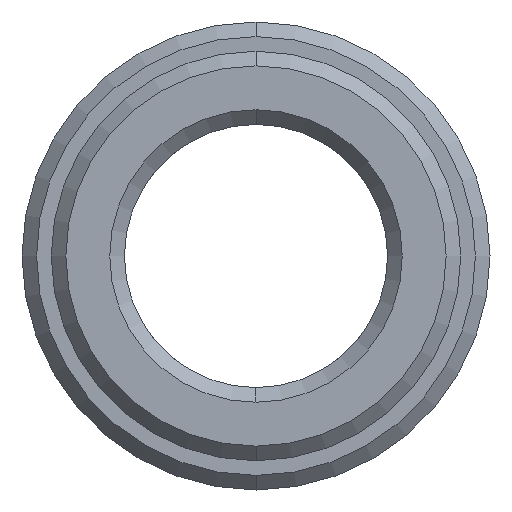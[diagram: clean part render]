
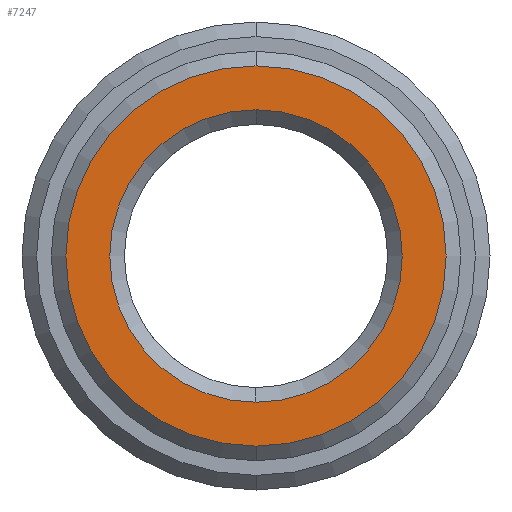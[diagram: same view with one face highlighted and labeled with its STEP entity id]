
A CAD part, left-side view. The second image highlights one B-rep face of the part: STEP entity #7247.
In plain terms, the highlighted planar face has unit normal (-1, 0, 0).
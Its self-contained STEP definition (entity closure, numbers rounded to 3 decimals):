
#4426=CARTESIAN_POINT('',(-5.,0.,0.));
#4427=DIRECTION('',(1.,0.,0.));
#4428=DIRECTION('',(0.,0.,1.));
#4429=AXIS2_PLACEMENT_3D('',#4426,#4427,#4428);
#4431=CARTESIAN_POINT('',(-5.,0.,0.));
#4432=DIRECTION('',(1.,0.,0.));
#4433=DIRECTION('',(0.,0.,-1.));
#4434=AXIS2_PLACEMENT_3D('',#4431,#4432,#4433);
#4436=CARTESIAN_POINT('',(-5.,0.,0.));
#4437=DIRECTION('',(1.,0.,0.));
#4438=DIRECTION('',(0.,0.,1.));
#4439=AXIS2_PLACEMENT_3D('',#4436,#4437,#4438);
#4441=CARTESIAN_POINT('',(-5.,0.,0.));
#4442=DIRECTION('',(1.,0.,0.));
#4443=DIRECTION('',(0.,0.,-1.));
#4444=AXIS2_PLACEMENT_3D('',#4441,#4442,#4443);
#4798=CARTESIAN_POINT('',(-5.,0.,5.));
#4799=CARTESIAN_POINT('',(-5.,0.,-5.));
#4800=VERTEX_POINT('',#4798);
#4801=VERTEX_POINT('',#4799);
#4806=CARTESIAN_POINT('',(-5.,0.,6.5));
#4807=CARTESIAN_POINT('',(-5.,0.,-6.5));
#4808=VERTEX_POINT('',#4806);
#4809=VERTEX_POINT('',#4807);
#7232=CARTESIAN_POINT('',(-5.,0.,0.));
#7233=DIRECTION('',(1.,0.,0.));
#7234=DIRECTION('',(0.,0.,1.));
#7235=AXIS2_PLACEMENT_3D('',#7232,#7233,#7234);
#7236=PLANE('',#7235);
#7237=ORIENTED_EDGE('',*,*,#7199,.T.);
#7238=ORIENTED_EDGE('',*,*,#7214,.T.);
#7239=EDGE_LOOP('',(#7237,#7238));
#7240=FACE_OUTER_BOUND('',#7239,.F.);
#7242=ORIENTED_EDGE('',*,*,#7241,.F.);
#7244=ORIENTED_EDGE('',*,*,#7243,.F.);
#7245=EDGE_LOOP('',(#7242,#7244));
#7246=FACE_BOUND('',#7245,.F.);
#7247=ADVANCED_FACE('',(#7240,#7246),#7236,.F.);
#4430=CIRCLE('',#4429,6.5);
#4435=CIRCLE('',#4434,6.5);
#4440=CIRCLE('',#4439,5.);
#4445=CIRCLE('',#4444,5.);
#7199=EDGE_CURVE('',#4808,#4809,#4430,.T.);
#7214=EDGE_CURVE('',#4809,#4808,#4435,.T.);
#7241=EDGE_CURVE('',#4800,#4801,#4440,.T.);
#7243=EDGE_CURVE('',#4801,#4800,#4445,.T.);
